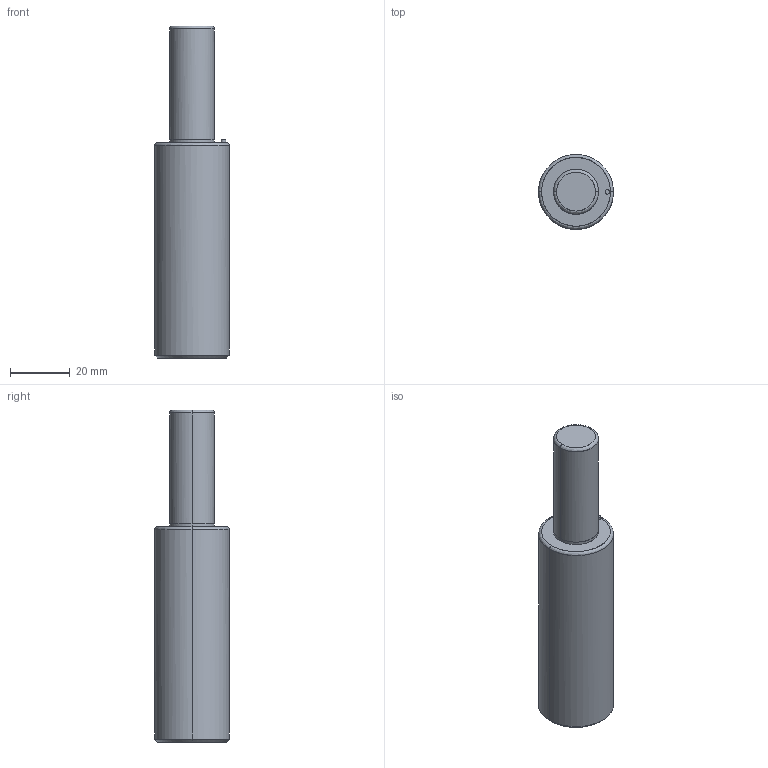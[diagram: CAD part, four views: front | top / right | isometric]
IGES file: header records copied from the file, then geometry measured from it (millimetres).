
Global section: file name: E:\UnigraphicsGraphicData\MISUMI_PRESS-PARTS\IGES\3d_mgsc25-38_04564_r00.igs; native system: NX V5.0; preprocessor: UGS NX IGES V5.0; author: MISUMI; date: 20110105.161436; units: millimetre
Bounding box: 25 x 24.99 x 111 mm (x, y, z)
Surface area: 8591.2 mm2 (no closed solid volume)
Topology: 0 solids, 0 shells, 24 faces, 136 edges, 134 vertices
Faces by surface type: bspline 24
